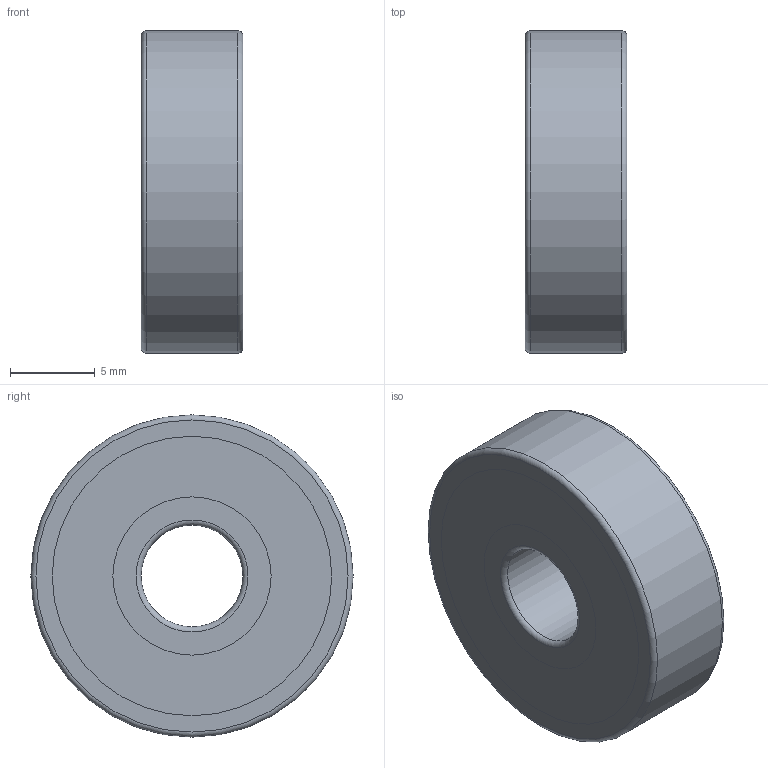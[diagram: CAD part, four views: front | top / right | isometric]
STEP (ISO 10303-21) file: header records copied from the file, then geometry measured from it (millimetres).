
FILE_DESCRIPTION(/* description */ (''),/* implementation_level */ '2;1');
FILE_NAME(/* name */ 'D:\moje\parametrické\62-,60-\rada 62-,60-2ZR\62-,60--2ZR\626-2ZR.stp',/* time_stamp */ '2016-04-04T13:40:23+02:00',/* author */ ('OUBALASKO'),/* organization */ (''),/* preprocessor_version */ 'ST-DEVELOPER v15.2',/* originating_system */ 'Autodesk Inventor 2014',/* authorisation */ '');
FILE_SCHEMA (('AUTOMOTIVE_DESIGN { 1 0 10303 214 3 1 1 }'));
Length unit declared in the file: millimetre
Products named in the file (6): 626-02-2ZR; 626-ball; 626-cage; 626-01-2ZR; 626-seal-RSR,ZR; 626-2ZR
Bounding box: 6 x 19 x 19 mm (x, y, z)
Volume: 1118.5 mm3; surface area: 2558.9 mm2
Topology: 14 solids, 14 shells, 104 faces, 366 edges, 240 vertices
Faces by surface type: plane 42, sphere 40, cylinder 16, torus 6
Full cylindrical faces by diameter (mm): 6 x1, 9.325 x4, 11.309 x2, 13.691 x2, 15.675 x2, 16.475 x4, 19 x1
Entity records: 2464 total; most frequent: CARTESIAN_POINT 962, DIRECTION 336, ORIENTED_EDGE 242, AXIS2_PLACEMENT_3D 168, EDGE_CURVE 121, VERTEX_POINT 90, CIRCLE 89, EDGE_LOOP 85
